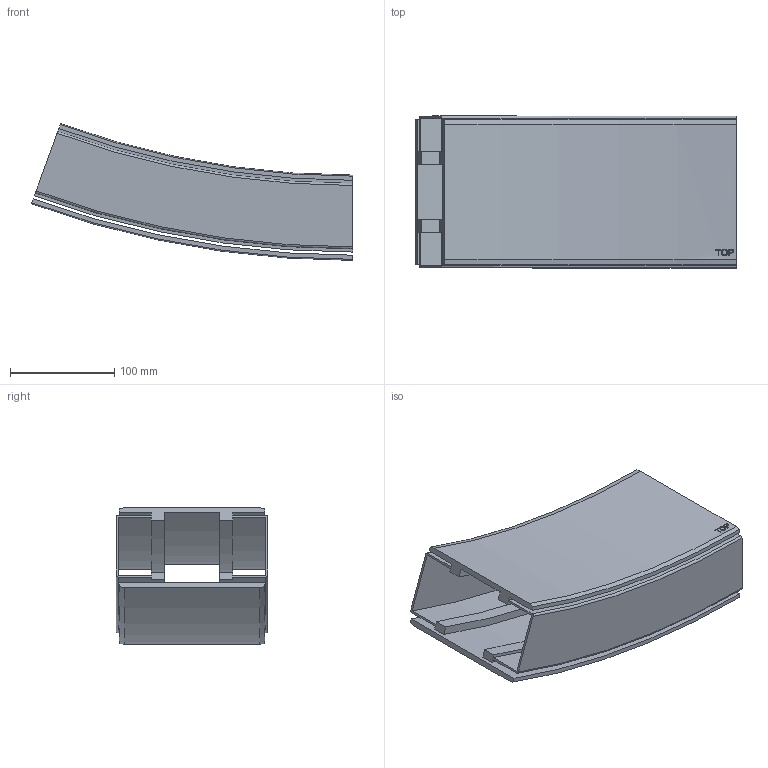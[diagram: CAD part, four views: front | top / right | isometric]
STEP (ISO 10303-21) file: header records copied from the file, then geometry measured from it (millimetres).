
FILE_DESCRIPTION(/* description */ ('VERTIKALKURVA S540 R860'),/* implementation_level */ '2;1');
FILE_NAME(/* name */ '540-5695+140-2000-UPP-01.stp',/* time_stamp */ '2022-09-21T11:14:34+02:00',/* author */ ('Mathias.Dore'),/* organization */ ('CARRYLINE'),/* preprocessor_version */ 'ST-DEVELOPER v19.2',/* originating_system */ 'Autodesk Inventor 2023',/* authorisation */ '');
FILE_SCHEMA (('AUTOMOTIVE_DESIGN { 1 0 10303 214 3 1 1 }'));
Length unit declared in the file: millimetre
Products named in the file (1): 540-5695+140-2000-UPP-01
Bounding box: 308.67 x 146 x 131.48 mm (x, y, z)
Volume: 689545.7 mm3; surface area: 361823.7 mm2
Topology: 2 solids, 2 shells, 87 faces, 234 edges, 156 vertices
Faces by surface type: plane 40, cylinder 25, bspline 14, cone 4, torus 4
Entity records: 7369 total; most frequent: CARTESIAN_POINT 5170, ORIENTED_EDGE 468, DIRECTION 408, EDGE_CURVE 234, VERTEX_POINT 156, AXIS2_PLACEMENT_3D 141, LINE 126, VECTOR 126
